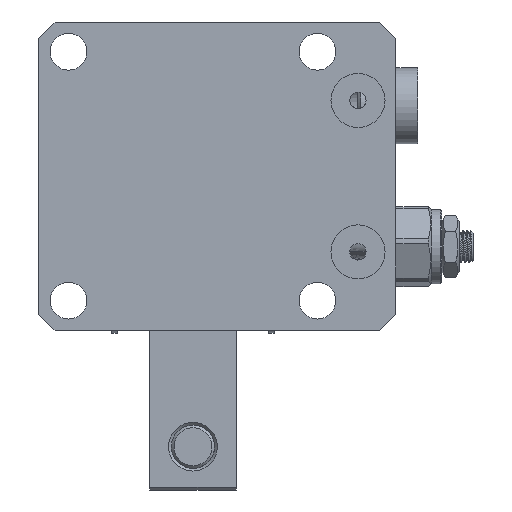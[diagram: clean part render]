
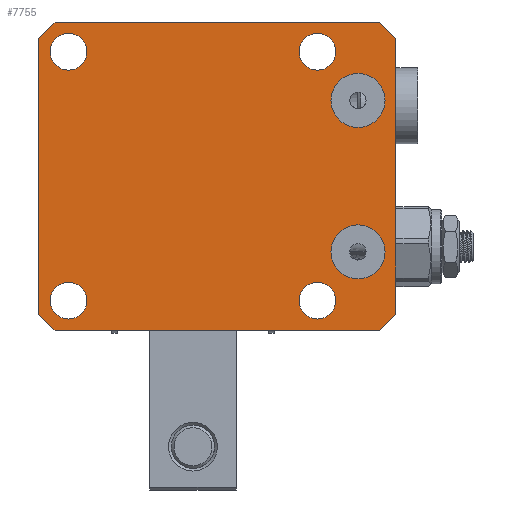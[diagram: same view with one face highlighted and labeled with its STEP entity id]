
A CAD part, front view. The second image highlights one B-rep face of the part: STEP entity #7755.
In plain terms, the highlighted planar face has unit normal (0, -1, 0).
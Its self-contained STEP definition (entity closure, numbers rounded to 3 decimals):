
#296=PLANE('',#8496);
#457=FACE_BOUND('',#1409,.T.);
#458=FACE_BOUND('',#1410,.T.);
#459=FACE_BOUND('',#1411,.T.);
#460=FACE_BOUND('',#1412,.T.);
#461=FACE_BOUND('',#1413,.T.);
#462=FACE_BOUND('',#1414,.T.);
#944=FACE_OUTER_BOUND('',#1408,.T.);
#1408=EDGE_LOOP('',(#5474,#5475,#5476,#5477,#5478,#5479,#5480,#5481));
#1409=EDGE_LOOP('',(#5482));
#1410=EDGE_LOOP('',(#5483));
#1411=EDGE_LOOP('',(#5484));
#1412=EDGE_LOOP('',(#5485));
#1413=EDGE_LOOP('',(#5486));
#1414=EDGE_LOOP('',(#5487));
#1930=LINE('',#11669,#2458);
#1966=LINE('',#11745,#2494);
#1967=LINE('',#11749,#2495);
#1968=LINE('',#11750,#2496);
#1969=LINE('',#11752,#2497);
#1970=LINE('',#11754,#2498);
#1971=LINE('',#11756,#2499);
#1972=LINE('',#11757,#2500);
#2458=VECTOR('',#9391,1000.);
#2494=VECTOR('',#9457,1000.);
#2495=VECTOR('',#9460,1000.);
#2496=VECTOR('',#9461,1000.);
#2497=VECTOR('',#9462,1000.);
#2498=VECTOR('',#9463,1000.);
#2499=VECTOR('',#9464,1000.);
#2500=VECTOR('',#9465,1000.);
#2960=CIRCLE('',#8432,3.4);
#2961=CIRCLE('',#8434,3.4);
#2962=CIRCLE('',#8436,3.4);
#2965=CIRCLE('',#8440,3.4);
#2969=CIRCLE('',#8445,5.);
#2971=CIRCLE('',#8448,5.);
#3315=VERTEX_POINT('',#11390);
#3316=VERTEX_POINT('',#11394);
#3317=VERTEX_POINT('',#11398);
#3320=VERTEX_POINT('',#11406);
#3324=VERTEX_POINT('',#11416);
#3326=VERTEX_POINT('',#11422);
#3366=VERTEX_POINT('',#11666);
#3367=VERTEX_POINT('',#11668);
#3392=VERTEX_POINT('',#11743);
#3393=VERTEX_POINT('',#11747);
#3394=VERTEX_POINT('',#11748);
#3395=VERTEX_POINT('',#11751);
#3396=VERTEX_POINT('',#11753);
#3397=VERTEX_POINT('',#11755);
#4099=EDGE_CURVE('',#3315,#3315,#2960,.T.);
#4101=EDGE_CURVE('',#3316,#3316,#2961,.T.);
#4103=EDGE_CURVE('',#3317,#3317,#2962,.T.);
#4107=EDGE_CURVE('',#3320,#3320,#2965,.T.);
#4113=EDGE_CURVE('',#3324,#3324,#2969,.T.);
#4116=EDGE_CURVE('',#3326,#3326,#2971,.T.);
#4169=EDGE_CURVE('',#3367,#3366,#1930,.T.);
#4208=EDGE_CURVE('',#3392,#3366,#1966,.T.);
#4209=EDGE_CURVE('',#3393,#3394,#1967,.T.);
#4210=EDGE_CURVE('',#3394,#3367,#1968,.T.);
#4211=EDGE_CURVE('',#3392,#3395,#1969,.T.);
#4212=EDGE_CURVE('',#3395,#3396,#1970,.T.);
#4213=EDGE_CURVE('',#3396,#3397,#1971,.T.);
#4214=EDGE_CURVE('',#3397,#3393,#1972,.T.);
#5474=ORIENTED_EDGE('',*,*,#4209,.T.);
#5475=ORIENTED_EDGE('',*,*,#4210,.T.);
#5476=ORIENTED_EDGE('',*,*,#4169,.T.);
#5477=ORIENTED_EDGE('',*,*,#4208,.F.);
#5478=ORIENTED_EDGE('',*,*,#4211,.T.);
#5479=ORIENTED_EDGE('',*,*,#4212,.T.);
#5480=ORIENTED_EDGE('',*,*,#4213,.T.);
#5481=ORIENTED_EDGE('',*,*,#4214,.T.);
#5482=ORIENTED_EDGE('',*,*,#4099,.T.);
#5483=ORIENTED_EDGE('',*,*,#4101,.T.);
#5484=ORIENTED_EDGE('',*,*,#4103,.T.);
#5485=ORIENTED_EDGE('',*,*,#4107,.T.);
#5486=ORIENTED_EDGE('',*,*,#4113,.T.);
#5487=ORIENTED_EDGE('',*,*,#4116,.T.);
#7755=ADVANCED_FACE('',(#944,#457,#458,#459,#460,#461,#462),#296,.T.);
#8432=AXIS2_PLACEMENT_3D('',#11391,#9262,#9263);
#8434=AXIS2_PLACEMENT_3D('',#11395,#9267,#9268);
#8436=AXIS2_PLACEMENT_3D('',#11399,#9272,#9273);
#8440=AXIS2_PLACEMENT_3D('',#11407,#9281,#9282);
#8445=AXIS2_PLACEMENT_3D('',#11418,#9293,#9294);
#8448=AXIS2_PLACEMENT_3D('',#11424,#9300,#9301);
#8496=AXIS2_PLACEMENT_3D('',#11746,#9458,#9459);
#9262=DIRECTION('center_axis',(0.,1.,0.));
#9263=DIRECTION('ref_axis',(0.,0.,1.));
#9267=DIRECTION('center_axis',(0.,1.,0.));
#9268=DIRECTION('ref_axis',(0.,0.,1.));
#9272=DIRECTION('center_axis',(0.,1.,0.));
#9273=DIRECTION('ref_axis',(0.,0.,1.));
#9281=DIRECTION('center_axis',(0.,1.,0.));
#9282=DIRECTION('ref_axis',(0.,0.,1.));
#9293=DIRECTION('center_axis',(0.,1.,0.));
#9294=DIRECTION('ref_axis',(0.,0.,-1.));
#9300=DIRECTION('center_axis',(0.,1.,0.));
#9301=DIRECTION('ref_axis',(0.,0.,-1.));
#9391=DIRECTION('',(1.,0.,0.));
#9457=DIRECTION('',(-0.707,0.,-0.707));
#9458=DIRECTION('center_axis',(0.,-1.,0.));
#9459=DIRECTION('ref_axis',(0.,0.,-1.));
#9460=DIRECTION('',(0.,0.,-1.));
#9461=DIRECTION('',(0.707,0.,-0.707));
#9462=DIRECTION('',(0.,0.,1.));
#9463=DIRECTION('',(-0.707,0.,0.707));
#9464=DIRECTION('',(-1.,0.,0.));
#9465=DIRECTION('',(-0.707,0.,-0.707));
#11390=CARTESIAN_POINT('',(-458.049,141.613,-26.4));
#11391=CARTESIAN_POINT('Origin',(-458.049,141.613,-23.));
#11394=CARTESIAN_POINT('',(-412.049,141.613,-26.4));
#11395=CARTESIAN_POINT('Origin',(-412.049,141.613,-23.));
#11398=CARTESIAN_POINT('',(-412.049,141.613,19.6));
#11399=CARTESIAN_POINT('Origin',(-412.049,141.613,23.));
#11406=CARTESIAN_POINT('',(-458.049,141.613,19.6));
#11407=CARTESIAN_POINT('Origin',(-458.049,141.613,23.));
#11416=CARTESIAN_POINT('',(-404.549,141.613,19.));
#11418=CARTESIAN_POINT('Origin',(-404.549,141.613,14.));
#11422=CARTESIAN_POINT('',(-404.549,141.613,-9.));
#11424=CARTESIAN_POINT('Origin',(-404.549,141.613,-14.));
#11666=CARTESIAN_POINT('',(-400.549,141.613,-28.5));
#11668=CARTESIAN_POINT('',(-460.549,141.613,-28.5));
#11669=CARTESIAN_POINT('',(-460.549,141.613,-28.5));
#11743=CARTESIAN_POINT('',(-397.549,141.613,-25.5));
#11745=CARTESIAN_POINT('',(-397.549,141.613,-25.5));
#11746=CARTESIAN_POINT('Origin',(-463.549,141.613,-28.5));
#11747=CARTESIAN_POINT('',(-463.549,141.613,25.5));
#11748=CARTESIAN_POINT('',(-463.549,141.613,-25.5));
#11749=CARTESIAN_POINT('',(-463.549,141.613,-28.5));
#11750=CARTESIAN_POINT('',(-463.549,141.613,-25.5));
#11751=CARTESIAN_POINT('',(-397.549,141.613,25.5));
#11752=CARTESIAN_POINT('',(-397.549,141.613,-28.5));
#11753=CARTESIAN_POINT('',(-400.549,141.613,28.5));
#11754=CARTESIAN_POINT('',(-397.549,141.613,25.5));
#11755=CARTESIAN_POINT('',(-460.549,141.613,28.5));
#11756=CARTESIAN_POINT('',(-463.549,141.613,28.5));
#11757=CARTESIAN_POINT('',(-460.549,141.613,28.5));
